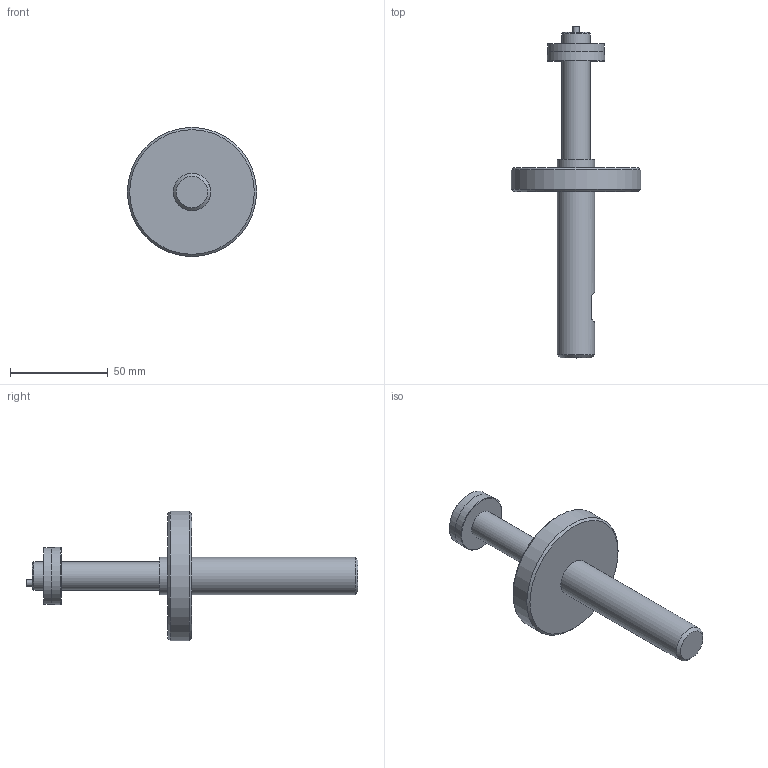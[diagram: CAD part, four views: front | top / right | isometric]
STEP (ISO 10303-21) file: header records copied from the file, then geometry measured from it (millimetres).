
FILE_DESCRIPTION (( 'STEP AP203' ), '1' );
FILE_NAME ('AF56-SIMPLE - AF56-14.50-29.50M.step', '2025-01-22T13:31:32', ( '' ), ( '' ), 'SwSTEP 2.0', 'SolidWorks 2024', '' );
FILE_SCHEMA (( 'CONFIG_CONTROL_DESIGN' ));
Length unit declared in the file: inch
Products named in the file (1): AF56-SIMPLE - AF56-14.50-29.50M
Bounding box: 66.04 x 169.8 x 66.04 mm (x, y, z)
Volume: 81786.8 mm3; surface area: 18765.7 mm2
Topology: 1 solids, 1 shells, 24 faces, 40 edges, 25 vertices
Faces by surface type: plane 11, cylinder 7, cone 5, torus 1
Full cylindrical faces by diameter (mm): 3.175 x1, 14.376 x2, 19.05 x2, 28.994 x1, 66.04 x1
Entity records: 569 total; most frequent: DIRECTION 94, CARTESIAN_POINT 81, ORIENTED_EDGE 52, AXIS2_PLACEMENT_3D 45, EDGE_LOOP 44, FACE_OUTER_BOUND 32, EDGE_CURVE 26, ADVANCED_FACE 24
